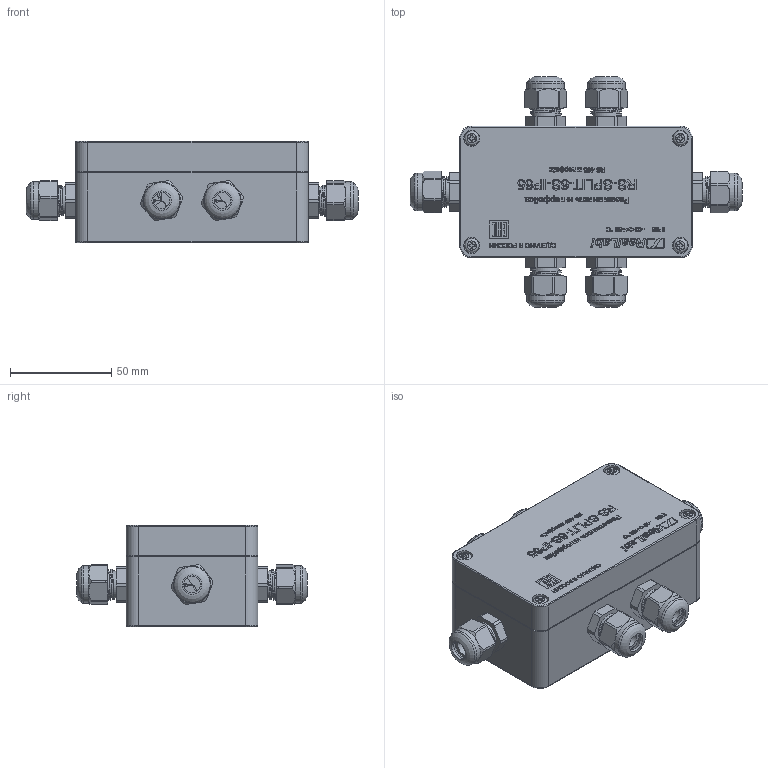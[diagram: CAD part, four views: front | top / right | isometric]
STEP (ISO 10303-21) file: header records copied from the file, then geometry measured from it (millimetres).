
FILE_DESCRIPTION(('STEP AP214'), '1');
FILE_NAME('ÍÏÊÃ.426411.007-005 RS-SPLIT-6S-IP65 äëÿ ñòåïêèèè', '', ('UNSPECIFIED'), ('UNSPECIFIED'), 'C3D Converter', 'C3D Toolkit', '');
FILE_SCHEMA(('AUTOMOTIVE_DESIGN { 1 0 10303 214 3 1 1}'));
Length unit declared in the file: millimetre
Bounding box: 164 x 114 x 50.02 mm (x, y, z)
Volume: 127612.4 mm3; surface area: 106240.2 mm2
Topology: 3 solids, 7 shells, 3637 faces, 9824 edges, 6466 vertices
Faces by surface type: plane 1717, extrusion 1178, cylinder 422, cone 214, bspline 72, torus 34
Full cylindrical faces by diameter (mm): 1.2 x36, 2.9 x4, 4 x4, 4.4 x4, 4.5 x4, 7 x4, 7.5 x4, 8 x4, 8.2 x6, 9 x2, 9.6 x6, 10 x6, 11 x6, 11.6 x12, 13.6 x36, 16 x12, 16.2 x6, 18.5 x6, 19.7 x4
Entity records: 300516 total; most frequent: CARTESIAN_POINT 186002, ORIENTED_EDGE 19196, DIRECTION 13802, EDGE_CURVE 9598, VERTEX_POINT 6454, VECTOR 6230, LINE 5052, B_SPLINE_CURVE_WITH_KNOTS 4278
